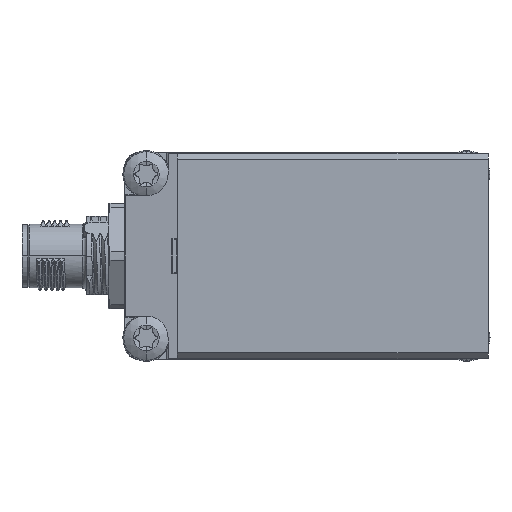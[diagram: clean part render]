
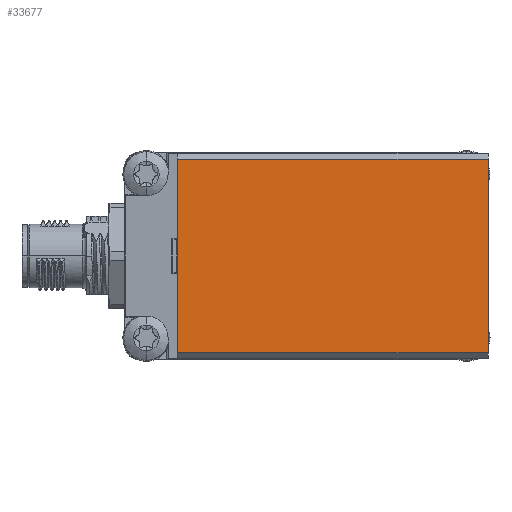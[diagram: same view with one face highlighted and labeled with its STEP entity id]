
A CAD part, front view. The second image highlights one B-rep face of the part: STEP entity #33677.
In plain terms, the highlighted planar face has unit normal (0, -1, 0).
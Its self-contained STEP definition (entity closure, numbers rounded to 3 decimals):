
#11509 = CARTESIAN_POINT ( 'NONE',  ( -22., -42.8, 16.5 ) ) ;
#11515 = CARTESIAN_POINT ( 'NONE',  ( -22., -42.8, -16.5 ) ) ;
#11518 = CARTESIAN_POINT ( 'NONE',  ( 31., -42.8, 16.5 ) ) ;
#11520 = CARTESIAN_POINT ( 'NONE',  ( 31., -42.8, -16.5 ) ) ;
#12331 = ORIENTED_EDGE ( 'NONE', *, *, #49697, .T. ) ;
#12333 = ORIENTED_EDGE ( 'NONE', *, *, #49700, .T. ) ;
#12340 = ORIENTED_EDGE ( 'NONE', *, *, #49703, .F. ) ;
#12342 = ORIENTED_EDGE ( 'NONE', *, *, #49707, .T. ) ;
#16098 = CARTESIAN_POINT ( 'NONE',  ( -22., -42.8, 17.5 ) ) ;
#16108 = DIRECTION ( 'NONE',  ( 1., 0., 0. ) ) ;
#16117 = CARTESIAN_POINT ( 'NONE',  ( 31., -42.8, -16.5 ) ) ;
#16120 = DIRECTION ( 'NONE',  ( 0., 0., -1. ) ) ;
#16126 = CARTESIAN_POINT ( 'NONE',  ( 31., -42.8, 17.5 ) ) ;
#16133 = CARTESIAN_POINT ( 'NONE',  ( 31., -42.8, 16.5 ) ) ;
#16138 = DIRECTION ( 'NONE',  ( 0., 0., -1. ) ) ;
#16148 = DIRECTION ( 'NONE',  ( -1., 0., 0. ) ) ;
#33677 = ADVANCED_FACE ( 'NONE', ( #145284 ), #78047, .F. ) ;
#40690 = EDGE_LOOP ( 'NONE', ( #12331, #12333, #12340, #12342 ) ) ;
#49697 = EDGE_CURVE ( 'NONE', #112681, #112684, #89032, .T. ) ;
#49700 = EDGE_CURVE ( 'NONE', #112684, #112687, #89034, .T. ) ;
#49703 = EDGE_CURVE ( 'NONE', #112686, #112687, #89038, .T. ) ;
#49707 = EDGE_CURVE ( 'NONE', #112686, #112681, #89036, .T. ) ;
#78047 = PLANE ( 'NONE',  #133701 ) ;
#78060 = CARTESIAN_POINT ( 'NONE',  ( 31., -42.8, 17.5 ) ) ;
#78061 = DIRECTION ( 'NONE',  ( 0., 1., 0. ) ) ;
#78063 = DIRECTION ( 'NONE',  ( 0., 0., 1. ) ) ;
#89032 = LINE ( 'NONE', #16098, #89037 ) ;
#89034 = LINE ( 'NONE', #16117, #89039 ) ;
#89036 = LINE ( 'NONE', #16133, #89043 ) ;
#89037 = VECTOR ( 'NONE', #16120, 1000. ) ;
#89038 = LINE ( 'NONE', #16126, #89041 ) ;
#89039 = VECTOR ( 'NONE', #16108, 1000. ) ;
#89041 = VECTOR ( 'NONE', #16138, 1000. ) ;
#89043 = VECTOR ( 'NONE', #16148, 1000. ) ;
#112681 = VERTEX_POINT ( 'NONE', #11509 ) ;
#112684 = VERTEX_POINT ( 'NONE', #11515 ) ;
#112686 = VERTEX_POINT ( 'NONE', #11518 ) ;
#112687 = VERTEX_POINT ( 'NONE', #11520 ) ;
#133701 = AXIS2_PLACEMENT_3D ( 'NONE', #78060, #78061, #78063 ) ;
#145284 = FACE_OUTER_BOUND ( 'NONE', #40690, .T. ) ;
